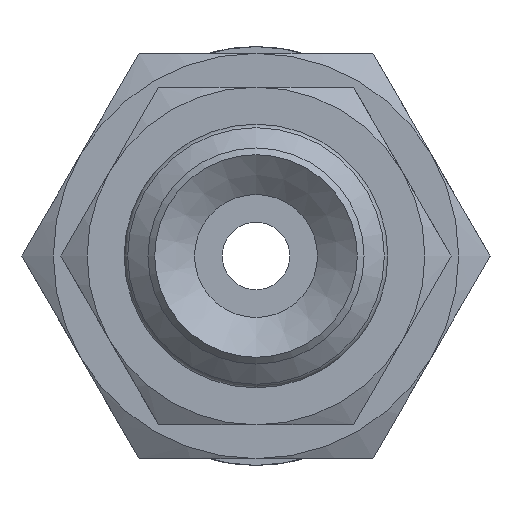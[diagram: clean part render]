
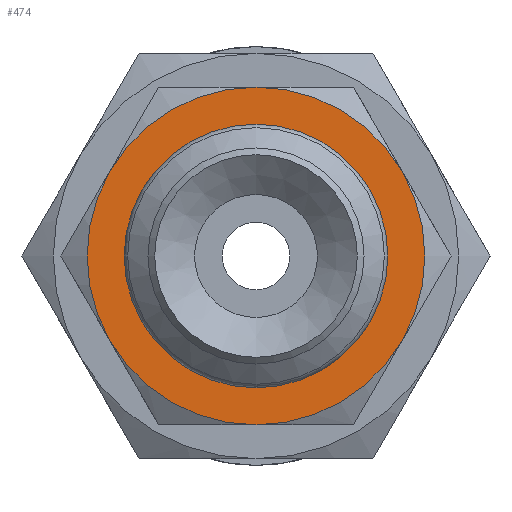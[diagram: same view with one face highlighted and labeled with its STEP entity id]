
A CAD part, front view. The second image highlights one B-rep face of the part: STEP entity #474.
In plain terms, the highlighted planar face has unit normal (0, -1, 0).
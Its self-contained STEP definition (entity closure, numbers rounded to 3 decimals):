
#474=ADVANCED_FACE('',(#654,#655),#656,.T.);
#654=FACE_BOUND('',#1033,.T.);
#655=FACE_OUTER_BOUND('',#1034,.T.);
#656=PLANE('',#1035);
#1033=EDGE_LOOP('',(#1711));
#1034=EDGE_LOOP('',(#1712,#1713,#1714,#1715,#1716,#1717));
#1035=AXIS2_PLACEMENT_3D('',#1718,#1719,#1720);
#1711=ORIENTED_EDGE('',*,*,#2594,.F.);
#1712=ORIENTED_EDGE('',*,*,#2568,.T.);
#1713=ORIENTED_EDGE('',*,*,#2602,.T.);
#1714=ORIENTED_EDGE('',*,*,#2582,.T.);
#1715=ORIENTED_EDGE('',*,*,#2584,.T.);
#1716=ORIENTED_EDGE('',*,*,#2603,.T.);
#1717=ORIENTED_EDGE('',*,*,#2604,.T.);
#1718=CARTESIAN_POINT('',(2.0,0.,0.0));
#1719=DIRECTION('',(0.0,-1.0,0.0));
#1720=DIRECTION('',(0.0,0.0,-1.0));
#2568=EDGE_CURVE('',#2837,#2843,#2845,.T.);
#2582=EDGE_CURVE('',#2868,#2861,#2870,.T.);
#2584=EDGE_CURVE('',#2861,#2871,#2873,.T.);
#2594=EDGE_CURVE('',#2887,#2887,#2888,.T.);
#2602=EDGE_CURVE('',#2843,#2868,#2902,.T.);
#2603=EDGE_CURVE('',#2871,#2820,#2903,.T.);
#2604=EDGE_CURVE('',#2820,#2837,#2904,.T.);
#2820=VERTEX_POINT('',#3272);
#2837=VERTEX_POINT('',#3302);
#2843=VERTEX_POINT('',#3315);
#2845=CIRCLE('',#3319,5.0);
#2861=VERTEX_POINT('',#3347);
#2868=VERTEX_POINT('',#3361);
#2870=CIRCLE('',#3365,5.0);
#2871=VERTEX_POINT('',#3366);
#2873=CIRCLE('',#3370,5.0);
#2887=VERTEX_POINT('',#3389);
#2888=CIRCLE('',#3390,2.0);
#2902=CIRCLE('',#3406,5.0);
#2903=CIRCLE('',#3407,5.0);
#2904=CIRCLE('',#3408,5.0);
#3272=CARTESIAN_POINT('',(-4.33,0.0,-2.5));
#3302=CARTESIAN_POINT('',(0.0,0.0,-5.0));
#3315=CARTESIAN_POINT('',(4.33,0.0,-2.5));
#3319=AXIS2_PLACEMENT_3D('',#4394,#4395,#4396);
#3347=CARTESIAN_POINT('',(0.0,0.0,5.0));
#3361=CARTESIAN_POINT('',(4.33,0.0,2.5));
#3365=AXIS2_PLACEMENT_3D('',#4403,#4404,#4405);
#3366=CARTESIAN_POINT('',(-4.33,0.,2.5));
#3370=AXIS2_PLACEMENT_3D('',#4406,#4407,#4408);
#3389=CARTESIAN_POINT('',(0.0,0.,-2.0));
#3390=AXIS2_PLACEMENT_3D('',#4428,#4429,#4430);
#3406=AXIS2_PLACEMENT_3D('',#4449,#4450,#4451);
#3407=AXIS2_PLACEMENT_3D('',#4452,#4453,#4454);
#3408=AXIS2_PLACEMENT_3D('',#4455,#4456,#4457);
#4394=CARTESIAN_POINT('',(0.0,0.,0.0));
#4395=DIRECTION('',(0.0,-1.0,0.0));
#4396=DIRECTION('',(0.0,0.0,-1.0));
#4403=CARTESIAN_POINT('',(0.0,0.,0.0));
#4404=DIRECTION('',(0.0,-1.0,0.0));
#4405=DIRECTION('',(0.0,0.0,-1.0));
#4406=CARTESIAN_POINT('',(0.0,0.,0.0));
#4407=DIRECTION('',(0.0,-1.0,0.0));
#4408=DIRECTION('',(0.0,0.0,-1.0));
#4428=CARTESIAN_POINT('',(0.0,0.,0.0));
#4429=DIRECTION('',(0.0,-1.0,0.0));
#4430=DIRECTION('',(0.0,0.0,-1.0));
#4449=CARTESIAN_POINT('',(0.0,0.,0.0));
#4450=DIRECTION('',(0.0,-1.0,0.0));
#4451=DIRECTION('',(0.0,0.0,-1.0));
#4452=CARTESIAN_POINT('',(0.0,0.,0.0));
#4453=DIRECTION('',(0.0,-1.0,0.0));
#4454=DIRECTION('',(0.0,0.0,-1.0));
#4455=CARTESIAN_POINT('',(0.0,0.,0.0));
#4456=DIRECTION('',(0.0,-1.0,0.0));
#4457=DIRECTION('',(0.0,0.0,-1.0));
